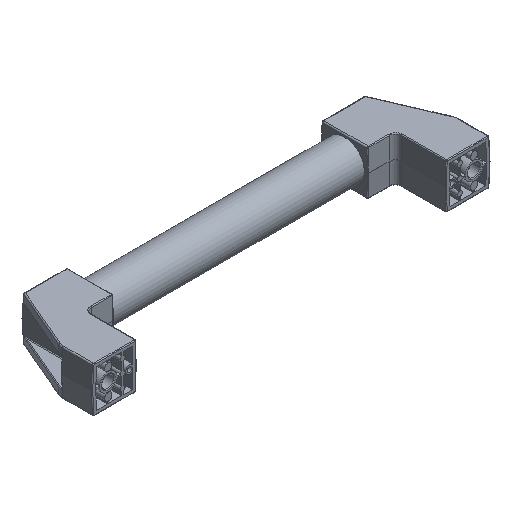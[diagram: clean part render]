
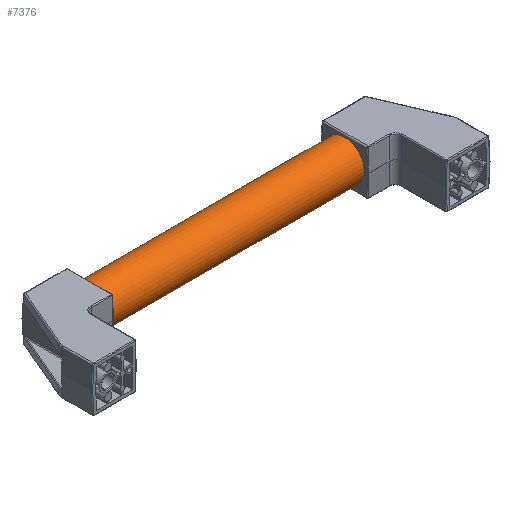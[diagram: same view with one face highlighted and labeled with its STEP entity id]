
A CAD part, isometric view. The second image highlights one B-rep face of the part: STEP entity #7376.
In plain terms, the highlighted cylindrical face has radius 15.95 mm (diameter 31.9 mm), a full revolution.
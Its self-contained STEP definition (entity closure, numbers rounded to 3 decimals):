
#162 = CIRCLE ( 'NONE', #2674, 15.95 ) ;
#318 = AXIS2_PLACEMENT_3D ( 'NONE', #7992, #5931, #10651 ) ;
#379 = FACE_OUTER_BOUND ( 'NONE', #2524, .T. ) ;
#622 = CARTESIAN_POINT ( 'NONE',  ( -103.613, -15.95, 0. ) ) ;
#915 = EDGE_CURVE ( 'NONE', #2716, #2716, #162, .T. ) ;
#1132 = ORIENTED_EDGE ( 'NONE', *, *, #915, .T. ) ;
#1339 = CARTESIAN_POINT ( 'NONE',  ( 124., 0., 0. ) ) ;
#2260 = CYLINDRICAL_SURFACE ( 'NONE', #4796, 15.95 ) ;
#2524 = EDGE_LOOP ( 'NONE', ( #1132 ) ) ;
#2674 = AXIS2_PLACEMENT_3D ( 'NONE', #10436, #11330, #4005 ) ;
#2716 = VERTEX_POINT ( 'NONE', #9452 ) ;
#4005 = DIRECTION ( 'NONE',  ( 0., 1., 0. ) ) ;
#4137 = EDGE_LOOP ( 'NONE', ( #5613 ) ) ;
#4796 = AXIS2_PLACEMENT_3D ( 'NONE', #1339, #5389, #11677 ) ;
#5389 = DIRECTION ( 'NONE',  ( -1., 0., 0. ) ) ;
#5613 = ORIENTED_EDGE ( 'NONE', *, *, #10279, .T. ) ;
#5931 = DIRECTION ( 'NONE',  ( 1., 0., 0. ) ) ;
#6846 = FACE_OUTER_BOUND ( 'NONE', #4137, .T. ) ;
#6933 = VERTEX_POINT ( 'NONE', #622 ) ;
#7376 = ADVANCED_FACE ( 'NONE', ( #379, #6846 ), #2260, .T. ) ;
#7992 = CARTESIAN_POINT ( 'NONE',  ( -103.613, 0., 0. ) ) ;
#9452 = CARTESIAN_POINT ( 'NONE',  ( 103.613, 15.95, 0. ) ) ;
#10279 = EDGE_CURVE ( 'NONE', #6933, #6933, #11912, .T. ) ;
#10436 = CARTESIAN_POINT ( 'NONE',  ( 103.613, 0., 0. ) ) ;
#10651 = DIRECTION ( 'NONE',  ( 0., -1., 0. ) ) ;
#11330 = DIRECTION ( 'NONE',  ( -1., 0., 0. ) ) ;
#11677 = DIRECTION ( 'NONE',  ( 0., 0., 1. ) ) ;
#11912 = CIRCLE ( 'NONE', #318, 15.95 ) ;
